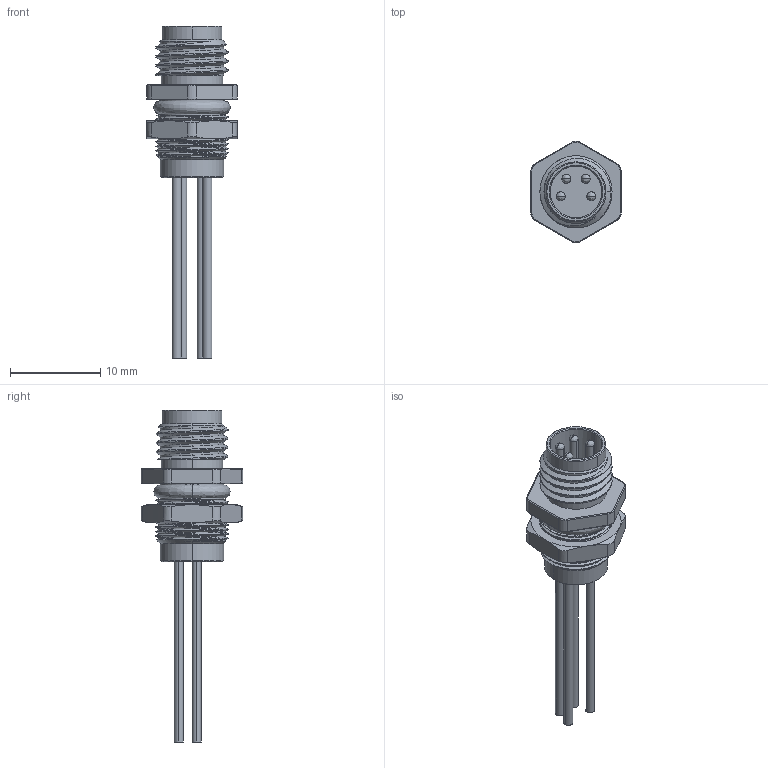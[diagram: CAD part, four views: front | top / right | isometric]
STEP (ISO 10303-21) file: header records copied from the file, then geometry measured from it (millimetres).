
FILE_DESCRIPTION (( 'STEP AP203' ), '1' );
FILE_NAME ('63SA61-XXX.STEP', '2023-10-26T05:44:11', ( 'ADMIN' ), ( '' ), 'SwSTEP 2.0', 'SolidWorks 2016', '' );
FILE_SCHEMA (( 'CONFIG_CONTROL_DESIGN' ));
Length unit declared in the file: millimetre
Products named in the file (1): 63SA61-XXX
Bounding box: 10 x 11.24 x 36.8 mm (x, y, z)
Surface area: 1619.8 mm2 (no closed solid volume)
Topology: 0 solids, 2 shells, 183 faces, 506 edges, 327 vertices
Faces by surface type: cylinder 102, bspline 28, plane 27, cone 26
Entity records: 11283 total; most frequent: CARTESIAN_POINT 7030, ORIENTED_EDGE 984, DIRECTION 709, EDGE_CURVE 498, VERTEX_POINT 327, AXIS2_PLACEMENT_3D 288, B_SPLINE_CURVE_WITH_KNOTS 227, EDGE_LOOP 198
